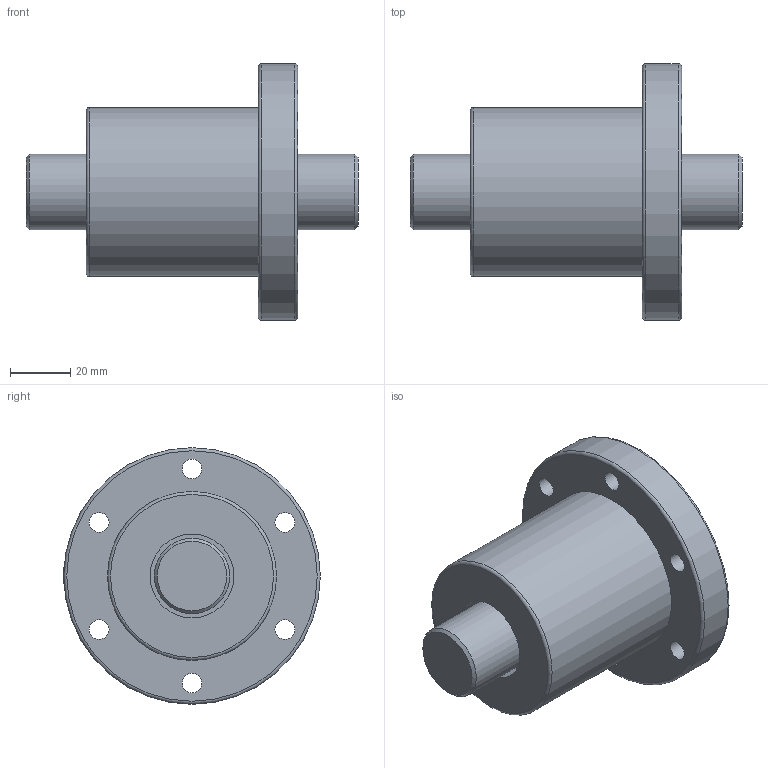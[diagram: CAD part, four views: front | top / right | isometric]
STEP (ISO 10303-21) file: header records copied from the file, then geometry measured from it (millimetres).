
FILE_DESCRIPTION (( 'STEP AP203' ), '1' );
FILE_NAME ('SFV02508-4.8.STEP', '2023-08-16T05:13:51', ( '' ), ( '' ), 'SwSTEP 2.0', 'SolidWorks 2022', '' );
FILE_SCHEMA (( 'CONFIG_CONTROL_DESIGN' ));
Length unit declared in the file: millimetre
Products named in the file (1): SFV02508-4.8
Bounding box: 110 x 85 x 85 mm (x, y, z)
Volume: 220719.4 mm3; surface area: 40389.7 mm2
Topology: 1 solids, 1 shells, 43 faces, 88 edges, 58 vertices
Faces by surface type: cylinder 21, plane 14, cone 3, torus 3, bspline 2
Full cylindrical faces by diameter (mm): 4 x1, 4.917 x1, 6.5 x6, 11 x6, 25 x2, 27.8 x1, 56 x1, 85 x1
Entity records: 2769 total; most frequent: CARTESIAN_POINT 1895, DIRECTION 174, ORIENTED_EDGE 110, EDGE_LOOP 91, AXIS2_PLACEMENT_3D 87, FACE_OUTER_BOUND 65, EDGE_CURVE 55, VERTEX_POINT 50
